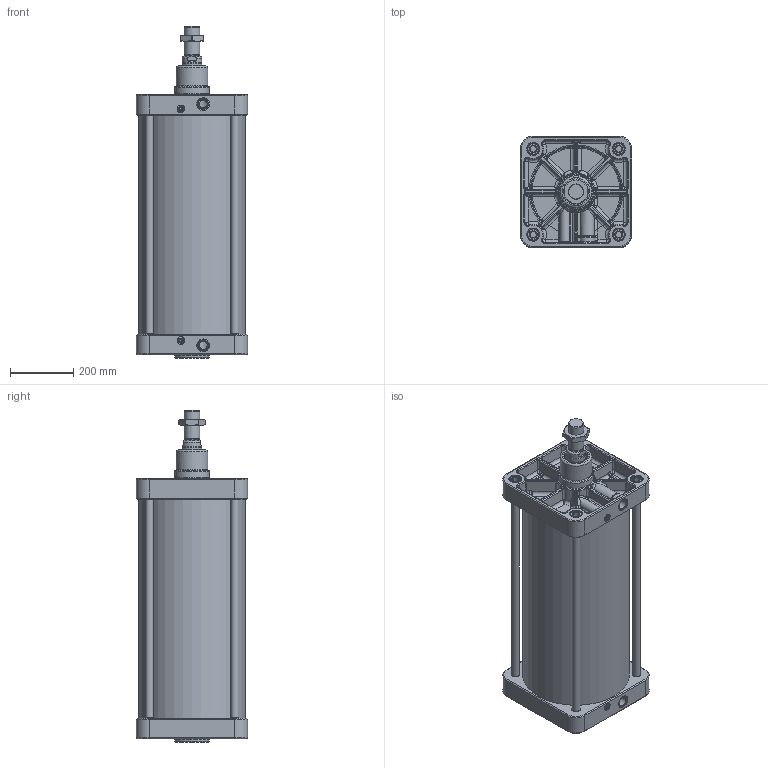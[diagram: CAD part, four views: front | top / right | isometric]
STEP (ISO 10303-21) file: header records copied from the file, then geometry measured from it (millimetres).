
FILE_DESCRIPTION(/* description */ (''),/* implementation_level */ '2;1');
FILE_NAME(/* name */ 'T:\Archivio Inventor\- 00 NUOVI STP PER SITO CON STELO CHE SI MUOVE\SERIE H - U\SERIE UDM\UDM320.---.GS.M\UDM320.600.GS.M.stp',/* time_stamp */ '2020-04-29T16:31:56+02:00',/* author */ ('carlo.corazza'),/* organization */ (''),/* preprocessor_version */ 'ST-DEVELOPER v16.5',/* originating_system */ 'Autodesk Inventor 2017',/* authorisation */ '');
FILE_SCHEMA (('AUTOMOTIVE_DESIGN { 1 0 10303 214 3 1 1 }'));
Length unit declared in the file: millimetre
Products named in the file (7): UDM320.600.GS.M; TP; STELO-600; TA; CORPO-600; TIRANTE-600; 29.2048.000.0
Assembly tree (9 placements, depth 2):
  UDM320.600.GS.M
    TP
    STELO-600
    TA
    TIRANTE-600  x4
    CORPO-600
    29.2048.000.0
Bounding box: 350 x 350 x 1046 mm (x, y, z)
Volume: 19032542.7 mm3; surface area: 3011503.5 mm2
Topology: 9 solids, 16 shells, 1710 faces, 3937 edges, 2221 vertices
Faces by surface type: cylinder 439, bspline 432, plane 380, torus 252, cone 115, sphere 92
Full cylindrical faces by diameter (mm): 8 x2, 9 x1, 10 x1, 11 x2, 11.2 x2, 12 x2, 12.376 x1, 13.4 x4, 14 x2, 15.8 x4, 16 x6, 20.752 x8, 24 x10, 24.5 x8, 25 x6, 30.291 x2, 36 x9, 37 x8, 40 x2, 44.8 x1, 45.835 x1, 48 x1, 62 x1, 63 x1, 64 x1, 64.293 x1, 65.8 x1, 73 x1, 75 x3, 100 x1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
Entity records: 64917 total; most frequent: CARTESIAN_POINT 27888, DIRECTION 7314, ORIENTED_EDGE 7088, EDGE_CURVE 3544, AXIS2_PLACEMENT_3D 3113, VERTEX_POINT 2134, EDGE_LOOP 1966, FACE_OUTER_BOUND 1683
